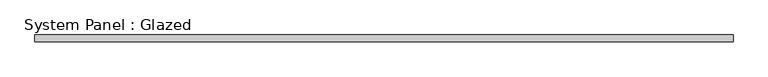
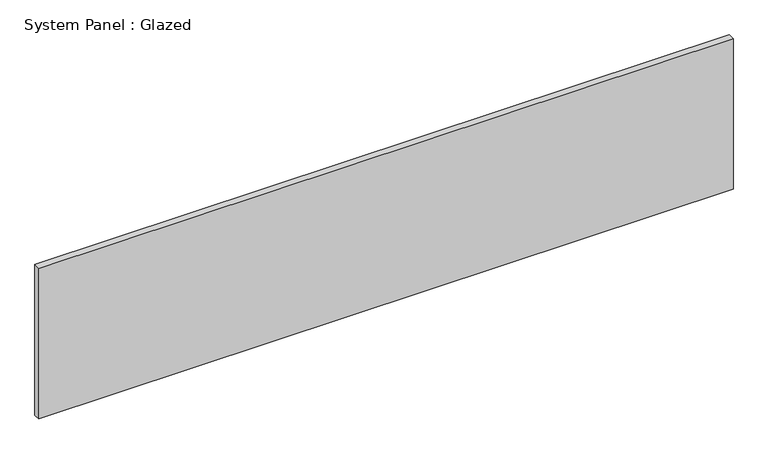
"""IFC4 building model written with IfcOpenShell, lengths in millimetres: plate geometry, System Panel : Glazed."""

from ifc_helpers import new_model, si_unit, origin, origin_with_axes, place, context, project, spatial, polyline, outline, extrude, source, transform, mapped, element, save


def system_panel_glazed_4cc813f7(model_context):
    return source(origin(), model_context, "Body", "SweptSolid", [
        extrude(outline(polyline([(1307.5, 24.5), (-1307.5, 24.5), (-1307.5, 49.5), (1307.5, 49.5), (1307.5, 24.5)])), origin_with_axes(), (0.0, 0.0, 1.0), 600.0),
    ])


if __name__ == "__main__":
    model = new_model("IFC4")
    model_context = context("Model", 3, world=origin())
    ifc_project = project(units=[si_unit("LENGTHUNIT", "METRE", prefix="MILLI")], contexts=[model_context])
    site = spatial("IfcSite", under=ifc_project)
    building = spatial("IfcBuilding", under=site)
    placement = place(None, origin())
    system_panel_glazed_shape = system_panel_glazed_4cc813f7(model_context)
    element("IfcPlate", 1, ObjectType="System Panel : Glazed", at=placement, inside=building, context=model_context, shape_type="MappedRepresentation", body=[
        mapped(system_panel_glazed_shape, transform((0.0, 0.0, 0.0), x_axis=(1.0, 0.0, 0.0), y_axis=(0.0, 1.0, 0.0), z_axis=(0.0, 0.0, 1.0))),
    ])
    save(model, "model.ifc")
